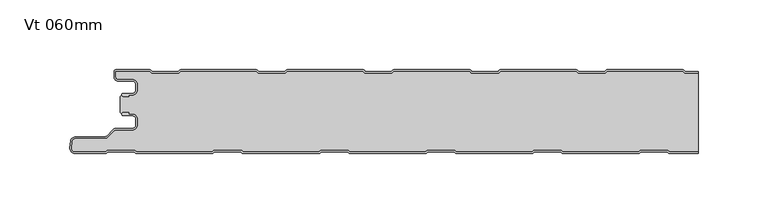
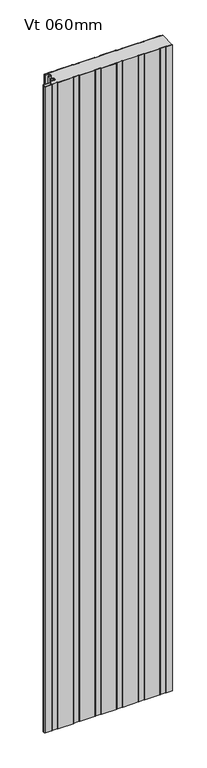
"""IFC4 building model written with IfcOpenShell, lengths in millimetres: plate geometry, KIP-MEX-KSS-1067-R19-CP-Vt-SL_SL : Vt 060mm."""

from ifc_helpers import new_model, si_unit, point, frame, frame_2d, origin, origin_with_axes, place, context, project, spatial, polyline, circle_curve, trimmed, segment, composite_curve, outline, extrude, source, transform, mapped, element, save
from ifc_brep_helpers import plane_surface, cylinder_surface, revolved_surface, advanced_brep


def vt_060mm_d385d6ef(model_context):
    return source(origin(), model_context, "Body", "SolidModel", [
        advanced_brep(
        [(-204.468691, -17.0015159, 2400.0), (-205.4686883, -18.0015191, 2400.0), (-204.468691, -19.0015105, 2400.0), (-200.4684874, -19.0015105, 2400.0), (-200.4684874, -18.0015159, 2400.0), (-197.7762776, -18.0015159, 2400.0), (-194.4762819, -14.7015202, 2400.0), (-194.4762819, -10.301529, 2400.0), (-197.7762774, -7.0015335, 2400.0), (-208.1962563, -7.0015335, 2400.0), (-209.9662505, -5.2315393, 2400.0), (-209.9662505, -0.9999916, 2400.0), (-185.4659738, -0.9999916, 2400.0), (-184.0803312, -2.2002307, 2400.0), (-164.7051649, -2.2002307, 2400.0), (-163.319532, -1.0, 2400.0), (-109.2661166, -1.0, 2400.0), (-107.8804836, -2.2002307, 2400.0), (-88.5053173, -2.2002307, 2400.0), (-87.1196844, -1.0, 2400.0), (-33.066269, -1.0, 2400.0), (-31.680636, -2.2002307, 2400.0), (-12.3054697, -2.2002307, 2400.0), (-10.9198368, -1.0, 2400.0), (43.1335786, -1.0, 2400.0), (44.5192116, -2.2002307, 2400.0), (63.8943779, -2.2002307, 2400.0), (65.2800108, -1.0, 2400.0), (119.3334262, -1.0, 2400.0), (120.7190592, -2.2002307, 2400.0), (140.0942255, -2.2002307, 2400.0), (141.4798584, -1.0, 2400.0), (195.5332738, -1.0, 2400.0), (196.9189068, -2.2002307, 2400.0), (206.4999998, -2.2002307, 2400.0), (206.4999998, -1.2002307, 2400.0), (197.2917872, -1.2002307, 2400.0), (196.3007396, -0.3417885, 2400.0), (195.3841227, 0.0, 2400.0), (141.6290096, 0.0, 2400.0), (140.7123927, -0.3417885, 2400.0), (139.7213451, -1.2002307, 2400.0), (121.0919396, -1.2002307, 2400.0), (120.100892, -0.3417885, 2400.0), (119.1842751, 0.0, 2400.0), (65.429162, 0.0, 2400.0), (64.5125451, -0.3417885, 2400.0), (63.5214975, -1.2002307, 2400.0), (44.892092, -1.2002307, 2400.0), (43.9010444, -0.3417885, 2400.0), (42.9844275, 0.0, 2400.0), (-10.7706856, 0.0, 2400.0), (-11.6873025, -0.3417885, 2400.0), (-12.6783501, -1.2002307, 2400.0), (-31.3077556, -1.2002307, 2400.0), (-32.2988032, -0.3417885, 2400.0), (-33.2154201, 0.0, 2400.0), (-86.9705332, 0.0, 2400.0), (-87.8871501, -0.3417885, 2400.0), (-88.8781977, -1.2002307, 2400.0), (-107.5076032, -1.2002307, 2400.0), (-108.4986508, -0.3417885, 2400.0), (-109.4152677, 0.0, 2400.0), (-163.1703808, 0.0, 2400.0), (-164.0869977, -0.3417885, 2400.0), (-165.0780453, -1.2002307, 2400.0), (-183.7074508, -1.2002307, 2400.0), (-184.6984984, -0.3417885, 2400.0), (-185.6152067, 0.0, 2400.0), (-209.5662543, 8.4e-06, 2400.0), (-210.9662505, -1.3999878, 2400.0), (-210.9662505, -5.2315393, 2400.0), (-208.1962563, -8.0015335, 2400.0), (-197.7762774, -8.0015335, 2400.0), (-195.4762819, -10.301529, 2400.0), (-195.4762819, -14.7015202, 2400.0), (-197.7762776, -17.0015159, 2400.0), (-204.468691, -17.0015159, 0.0), (-197.7762776, -17.0015159, 0.0), (-195.4762819, -14.7015202, 0.0), (-195.4762819, -10.301529, 0.0), (-197.7762774, -8.0015335, 0.0), (-208.1962563, -8.0015335, 0.0), (-210.9662505, -5.2315393, 0.0), (-210.9662505, -1.3999878, 0.0), (-209.5662543, 8.4e-06, 0.0), (-185.6151153, 8.4e-06, 0.0), (-184.6984984, -0.3417885, 0.0), (-183.7074508, -1.2002307, 0.0), (-165.0780453, -1.2002307, 0.0), (-164.0869977, -0.3417885, 0.0), (-163.1703808, 0.0, 0.0), (-109.4152677, 0.0, 0.0), (-108.4986508, -0.3417885, 0.0), (-107.5076032, -1.2002307, 0.0), (-88.8781977, -1.2002307, 0.0), (-87.8871501, -0.3417885, 0.0), (-86.9705332, 0.0, 0.0), (-33.2154201, 0.0, 0.0), (-32.2988032, -0.3417885, 0.0), (-31.3077556, -1.2002307, 0.0), (-12.6783501, -1.2002307, 0.0), (-11.6873025, -0.3417885, 0.0), (-10.7706856, 0.0, 0.0), (42.9844275, 0.0, 0.0), (43.9010444, -0.3417885, 0.0), (44.892092, -1.2002307, 0.0), (63.5214975, -1.2002307, 0.0), (64.5125451, -0.3417885, 0.0), (65.429162, 0.0, 0.0), (119.1842751, 0.0, 0.0), (120.100892, -0.3417885, 0.0), (121.0919396, -1.2002307, 0.0), (139.7213451, -1.2002307, 0.0), (140.7123927, -0.3417885, 0.0), (141.6290096, 0.0, 0.0), (195.3841227, 0.0, 0.0), (196.3007396, -0.3417885, 0.0), (197.2917872, -1.2002307, 0.0), (206.4999998, -1.2002307, 0.0), (206.4999998, -2.2002307, 0.0), (196.9189068, -2.2002307, 0.0), (195.5332738, -1.0, 0.0), (141.4798584, -1.0, 0.0), (140.0942255, -2.2002307, 0.0), (120.7190592, -2.2002307, 0.0), (119.3334262, -1.0, 0.0), (65.2800108, -1.0, 0.0), (63.8943779, -2.2002307, 0.0), (44.5192116, -2.2002307, 0.0), (43.1335786, -1.0, 0.0), (-10.9198368, -1.0, 0.0), (-12.3054697, -2.2002307, 0.0), (-31.680636, -2.2002307, 0.0), (-33.066269, -1.0, 0.0), (-87.1196844, -1.0, 0.0), (-88.5053173, -2.2002307, 0.0), (-107.8804836, -2.2002307, 0.0), (-109.2661166, -1.0, 0.0), (-163.319532, -1.0, 0.0), (-164.7051649, -2.2002307, 0.0), (-184.0803312, -2.2002307, 0.0), (-185.4659738, -0.9999916, 0.0), (-209.9662505, -0.9999916, 0.0), (-209.9662505, -5.2315393, 0.0), (-208.1962563, -7.0015335, 0.0), (-197.7762774, -7.0015335, 0.0), (-194.4762819, -10.301529, 0.0), (-194.4762819, -14.7015202, 0.0), (-197.7762776, -18.0015159, 0.0), (-200.4684874, -18.0015159, 0.0), (-200.4684874, -19.0015105, 0.0), (-204.468691, -19.0015105, 0.0), (-205.4686882, -18.0015192, 0.0)],
        [
            (0, 1, circle_curve(frame((-204.468691, -18.0015132, 2400.0), z_axis=(0.0, 0.0, 1.0), x_axis=(1.0, 0.0, 0.0)), 0.9999973)),
            (1, 2, circle_curve(frame((-204.468691, -18.0015133, 2400.0), z_axis=(0.0, 0.0, 1.0), x_axis=(1.0, 0.0, 0.0)), 0.9999972)),
            (2, 3),
            (3, 4),
            (4, 5),
            (5, 6, circle_curve(frame((-197.7762776, -14.7015202, 2400.0), z_axis=(0.0, 0.0, 1.0), x_axis=(1.0, 0.0, 0.0)), 3.2999957)),
            (6, 7),
            (7, 8, circle_curve(frame((-197.7762774, -10.301529, 2400.0), z_axis=(0.0, 0.0, 1.0), x_axis=(1.0, 0.0, 0.0)), 3.2999955)),
            (8, 9),
            (9, 10, circle_curve(frame((-208.1962563, -5.2315393, 2400.0), z_axis=(0.0, 0.0, -1.0), x_axis=(1.0, 0.0, 0.0)), 1.7699942)),
            (10, 11),
            (11, 12),
            (12, 13),
            (13, 14),
            (14, 15),
            (15, 16),
            (16, 17),
            (17, 18),
            (18, 19),
            (19, 20),
            (20, 21),
            (21, 22),
            (22, 23),
            (23, 24),
            (24, 25),
            (25, 26),
            (26, 27),
            (27, 28),
            (28, 29),
            (29, 30),
            (30, 31),
            (31, 32),
            (32, 33),
            (33, 34),
            (34, 35),
            (35, 36),
            (36, 37),
            (37, 38, circle_curve(frame((195.3841227, -1.3999972, 2400.0), z_axis=(0.0, 0.0, 1.0), x_axis=(1.0, 0.0, 0.0)), 1.3999972)),
            (38, 39),
            (39, 40, circle_curve(frame((141.6290096, -1.3999972, 2400.0), z_axis=(0.0, 0.0, 1.0), x_axis=(1.0, 0.0, 0.0)), 1.3999972)),
            (40, 41),
            (41, 42),
            (42, 43),
            (43, 44, circle_curve(frame((119.1842751, -1.3999972, 2400.0), z_axis=(0.0, 0.0, 1.0), x_axis=(1.0, 0.0, 0.0)), 1.3999972)),
            (44, 45),
            (45, 46, circle_curve(frame((65.429162, -1.3999972, 2400.0), z_axis=(0.0, 0.0, 1.0), x_axis=(1.0, 0.0, 0.0)), 1.3999972)),
            (46, 47),
            (47, 48),
            (48, 49),
            (49, 50, circle_curve(frame((42.9844275, -1.3999972, 2400.0), z_axis=(0.0, 0.0, 1.0), x_axis=(1.0, 0.0, 0.0)), 1.3999972)),
            (50, 51),
            (51, 52, circle_curve(frame((-10.7706856, -1.3999972, 2400.0), z_axis=(0.0, 0.0, 1.0), x_axis=(1.0, 0.0, 0.0)), 1.3999972)),
            (52, 53),
            (53, 54),
            (54, 55),
            (55, 56, circle_curve(frame((-33.2154201, -1.3999972, 2400.0), z_axis=(0.0, 0.0, 1.0), x_axis=(1.0, 0.0, 0.0)), 1.3999972)),
            (56, 57),
            (57, 58, circle_curve(frame((-86.9705332, -1.3999972, 2400.0), z_axis=(0.0, 0.0, 1.0), x_axis=(1.0, 0.0, 0.0)), 1.3999972)),
            (58, 59),
            (59, 60),
            (60, 61),
            (61, 62, circle_curve(frame((-109.4152677, -1.3999972, 2400.0), z_axis=(0.0, 0.0, 1.0), x_axis=(1.0, 0.0, 0.0)), 1.3999972)),
            (62, 63),
            (63, 64, circle_curve(frame((-163.1703808, -1.3999972, 2400.0), z_axis=(0.0, 0.0, 1.0), x_axis=(1.0, 0.0, 0.0)), 1.3999972)),
            (64, 65),
            (65, 66),
            (66, 67),
            (67, 68, circle_curve(frame((-185.6151153, -1.3999972, 2400.0), z_axis=(0.0, 0.0, 1.0), x_axis=(1.0, 0.0, 0.0)), 1.3999972)),
            (68, 69),
            (69, 70, circle_curve(frame((-209.5662543, -1.3999878, 2400.0), z_axis=(0.0, 0.0, 1.0), x_axis=(1.0, 0.0, 0.0)), 1.3999962)),
            (70, 71),
            (71, 72, circle_curve(frame((-208.1962563, -5.2315393, 2400.0), z_axis=(0.0, 0.0, 1.0), x_axis=(1.0, 0.0, 0.0)), 2.7699942)),
            (72, 73),
            (73, 74, circle_curve(frame((-197.7762774, -10.301529, 2400.0), z_axis=(0.0, 0.0, -1.0), x_axis=(1.0, 0.0, 0.0)), 2.2999955)),
            (74, 75),
            (75, 76, circle_curve(frame((-197.7762776, -14.7015202, 2400.0), z_axis=(0.0, 0.0, -1.0), x_axis=(1.0, 0.0, 0.0)), 2.2999957)),
            (76, 0),
            (77, 78),
            (78, 79, circle_curve(frame((-197.7762776, -14.7015202, 0.0), z_axis=(0.0, 0.0, 1.0), x_axis=(1.0, 0.0, 0.0)), 2.2999957)),
            (79, 80),
            (80, 81, circle_curve(frame((-197.7762774, -10.301529, 0.0), z_axis=(0.0, 0.0, 1.0), x_axis=(1.0, 0.0, 0.0)), 2.2999955)),
            (81, 82),
            (82, 83, circle_curve(frame((-208.1962563, -5.2315393, 0.0), z_axis=(0.0, 0.0, -1.0), x_axis=(1.0, 0.0, 0.0)), 2.7699942)),
            (83, 84),
            (84, 85, circle_curve(frame((-209.5662543, -1.3999878, 0.0), z_axis=(0.0, 0.0, -1.0), x_axis=(1.0, 0.0, 0.0)), 1.3999962)),
            (85, 86),
            (86, 87, circle_curve(frame((-185.6151153, -1.3999972, 0.0), z_axis=(0.0, 0.0, -1.0), x_axis=(1.0, 0.0, 0.0)), 1.3999972)),
            (87, 88),
            (88, 89),
            (89, 90),
            (90, 91, circle_curve(frame((-163.1703808, -1.3999972, 0.0), z_axis=(0.0, 0.0, -1.0), x_axis=(1.0, 0.0, 0.0)), 1.3999972)),
            (91, 92),
            (92, 93, circle_curve(frame((-109.4152677, -1.3999972, 0.0), z_axis=(0.0, 0.0, -1.0), x_axis=(1.0, 0.0, 0.0)), 1.3999972)),
            (93, 94),
            (94, 95),
            (95, 96),
            (96, 97, circle_curve(frame((-86.9705332, -1.3999972, 0.0), z_axis=(0.0, 0.0, -1.0), x_axis=(1.0, 0.0, 0.0)), 1.3999972)),
            (97, 98),
            (98, 99, circle_curve(frame((-33.2154201, -1.3999972, 0.0), z_axis=(0.0, 0.0, -1.0), x_axis=(1.0, 0.0, 0.0)), 1.3999972)),
            (99, 100),
            (100, 101),
            (101, 102),
            (102, 103, circle_curve(frame((-10.7706856, -1.3999972, 0.0), z_axis=(0.0, 0.0, -1.0), x_axis=(1.0, 0.0, 0.0)), 1.3999972)),
            (103, 104),
            (104, 105, circle_curve(frame((42.9844275, -1.3999972, 0.0), z_axis=(0.0, 0.0, -1.0), x_axis=(1.0, 0.0, 0.0)), 1.3999972)),
            (105, 106),
            (106, 107),
            (107, 108),
            (108, 109, circle_curve(frame((65.429162, -1.3999972, 0.0), z_axis=(0.0, 0.0, -1.0), x_axis=(1.0, 0.0, 0.0)), 1.3999972)),
            (109, 110),
            (110, 111, circle_curve(frame((119.1842751, -1.3999972, 0.0), z_axis=(0.0, 0.0, -1.0), x_axis=(1.0, 0.0, 0.0)), 1.3999972)),
            (111, 112),
            (112, 113),
            (113, 114),
            (114, 115, circle_curve(frame((141.6290096, -1.3999972, 0.0), z_axis=(0.0, 0.0, -1.0), x_axis=(1.0, 0.0, 0.0)), 1.3999972)),
            (115, 116),
            (116, 117, circle_curve(frame((195.3841227, -1.3999972, 0.0), z_axis=(0.0, 0.0, -1.0), x_axis=(1.0, 0.0, 0.0)), 1.3999972)),
            (117, 118),
            (118, 119),
            (119, 120),
            (120, 121),
            (121, 122),
            (122, 123),
            (123, 124),
            (124, 125),
            (125, 126),
            (126, 127),
            (127, 128),
            (128, 129),
            (129, 130),
            (130, 131),
            (131, 132),
            (132, 133),
            (133, 134),
            (134, 135),
            (135, 136),
            (136, 137),
            (137, 138),
            (138, 139),
            (139, 140),
            (140, 141),
            (141, 142),
            (142, 143),
            (143, 144),
            (144, 145, circle_curve(frame((-208.1962563, -5.2315393, 0.0), z_axis=(0.0, 0.0, 1.0), x_axis=(1.0, 0.0, 0.0)), 1.7699942)),
            (145, 146),
            (146, 147, circle_curve(frame((-197.7762774, -10.301529, 0.0), z_axis=(0.0, 0.0, -1.0), x_axis=(1.0, 0.0, 0.0)), 3.2999955)),
            (147, 148),
            (148, 149, circle_curve(frame((-197.7762776, -14.7015202, 0.0), z_axis=(0.0, 0.0, -1.0), x_axis=(1.0, 0.0, 0.0)), 3.2999957)),
            (149, 150),
            (150, 151),
            (151, 152),
            (152, 153, circle_curve(frame((-204.468691, -18.0015133, 0.0), z_axis=(0.0, 0.0, -1.0), x_axis=(1.0, 0.0, 0.0)), 0.9999972)),
            (153, 77, circle_curve(frame((-204.468691, -18.0015132, 0.0), z_axis=(0.0, 0.0, -1.0), x_axis=(1.0, 0.0, 0.0)), 0.9999973)),
            (76, 78),
            (77, 0),
            (75, 79),
            (74, 80),
            (73, 81),
            (72, 82),
            (71, 83),
            (70, 84),
            (69, 85),
            (68, 86),
            (67, 87),
            (66, 88),
            (65, 89),
            (64, 90),
            (63, 91),
            (62, 92),
            (61, 93),
            (60, 94),
            (59, 95),
            (58, 96),
            (57, 97),
            (56, 98),
            (55, 99),
            (54, 100),
            (53, 101),
            (52, 102),
            (51, 103),
            (50, 104),
            (49, 105),
            (48, 106),
            (47, 107),
            (46, 108),
            (45, 109),
            (44, 110),
            (43, 111),
            (42, 112),
            (41, 113),
            (40, 114),
            (39, 115),
            (38, 116),
            (37, 117),
            (36, 118),
            (35, 119),
            (120, 34),
            (33, 121),
            (32, 122),
            (31, 123),
            (30, 124),
            (29, 125),
            (28, 126),
            (27, 127),
            (26, 128),
            (25, 129),
            (24, 130),
            (23, 131),
            (22, 132),
            (21, 133),
            (20, 134),
            (19, 135),
            (18, 136),
            (17, 137),
            (16, 138),
            (15, 139),
            (14, 140),
            (13, 141),
            (12, 142),
            (11, 143),
            (10, 144),
            (9, 145),
            (8, 146),
            (7, 147),
            (6, 148),
            (5, 149),
            (4, 150),
            (3, 151),
            (2, 152),
            (1, 153),
        ],
        [
            plane_surface(frame((326.9000002, 0.0, 2400.0), z_axis=(0.0, 0.0, 1.0), x_axis=(0.0, 1.0, 0.0))),
            plane_surface(frame((326.9000002, 0.0, 0.0), z_axis=(0.0, 0.0, -1.0), x_axis=(0.0, 1.0, 0.0))),
            plane_surface(frame((-204.468691, -17.0015159, 2400.0), z_axis=(0.0, 1.0, 0.0), x_axis=(0.0, 0.0, -1.0))),
            revolved_surface(polyline([(-195.47628189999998, -14.7015202, 0.0), (-195.47628189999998, -14.7015202, 2400.0)]), (-197.7762776, -14.7015202, 2400.0), (0.0, 0.0, -1.0)),
            plane_surface(frame((-195.4762819, -14.7015202, 2400.0), z_axis=(-1.0, 0.0, 0.0), x_axis=(0.0, 0.0, -1.0))),
            revolved_surface(polyline([(-195.4762819, -10.301529, 0.0), (-195.4762819, -10.301529, 2400.0)]), (-197.7762774, -10.301529, 2400.0), (0.0, 0.0, -1.0)),
            plane_surface(frame((-197.7762774, -8.0015335, 2400.0), z_axis=(0.0, -1.0, 0.0), x_axis=(0.0, 0.0, -1.0))),
            cylinder_surface(frame((-208.1962563, -5.2315393, 2400.0), z_axis=(0.0, 0.0, 1.0), x_axis=(1.0, 0.0, 0.0)), 2.7699942),
            plane_surface(frame((-210.9662505, -5.2315393, 2400.0), z_axis=(-1.0, 0.0, 0.0), x_axis=(0.0, 0.0, -1.0))),
            cylinder_surface(frame((-209.5662543, -1.3999878, 2400.0), z_axis=(0.0, 0.0, 1.0), x_axis=(1.0, 0.0, 0.0)), 1.3999962),
            plane_surface(frame((-209.5662543, 8.4e-06, 2400.0), z_axis=(0.0, 1.0, 0.0), x_axis=(0.0, 0.0, -1.0))),
            cylinder_surface(frame((-185.6151153, -1.3999972, 2400.0), z_axis=(0.0, 0.0, 1.0), x_axis=(1.0, 0.0, 0.0)), 1.3999972),
            plane_surface(frame((-184.6984984, -0.3417885, 2400.0), z_axis=(0.6547276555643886, 0.755864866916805, 0.0), x_axis=(0.0, 0.0, -1.0))),
            plane_surface(frame((-174.3927481, -1.2002307, 2400.0), z_axis=(0.0, 1.0, 0.0), x_axis=(0.0, 0.0, -1.0))),
            plane_surface(frame((-165.0780453, -1.2002307, 2400.0), z_axis=(-0.6547276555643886, 0.755864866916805, 0.0), x_axis=(0.0, 0.0, -1.0))),
            cylinder_surface(frame((-163.1703808, -1.3999972, 2400.0), z_axis=(0.0, 0.0, 1.0), x_axis=(1.0, 0.0, 0.0)), 1.3999972),
            plane_surface(frame((-163.1703808, 0.0, 2400.0), z_axis=(0.0, 1.0, 0.0), x_axis=(0.0, 0.0, -1.0))),
            cylinder_surface(frame((-109.4152677, -1.3999972, 2400.0), z_axis=(0.0, 0.0, 1.0), x_axis=(1.0, 0.0, 0.0)), 1.3999972),
            plane_surface(frame((-108.4986508, -0.3417885, 2400.0), z_axis=(0.6547276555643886, 0.755864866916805, 0.0), x_axis=(0.0, 0.0, -1.0))),
            plane_surface(frame((-98.1929005, -1.2002307, 2400.0), z_axis=(0.0, 1.0, 0.0), x_axis=(0.0, 0.0, -1.0))),
            plane_surface(frame((-88.8781977, -1.2002307, 2400.0), z_axis=(-0.6547276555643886, 0.755864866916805, 0.0), x_axis=(0.0, 0.0, -1.0))),
            cylinder_surface(frame((-86.9705332, -1.3999972, 2400.0), z_axis=(0.0, 0.0, 1.0), x_axis=(1.0, 0.0, 0.0)), 1.3999972),
            plane_surface(frame((-86.9705332, 0.0, 2400.0), z_axis=(0.0, 1.0, 0.0), x_axis=(0.0, 0.0, -1.0))),
            cylinder_surface(frame((-33.2154201, -1.3999972, 2400.0), z_axis=(0.0, 0.0, 1.0), x_axis=(1.0, 0.0, 0.0)), 1.3999972),
            plane_surface(frame((-32.2988032, -0.3417885, 2400.0), z_axis=(0.6547276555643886, 0.755864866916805, 0.0), x_axis=(0.0, 0.0, -1.0))),
            plane_surface(frame((-21.9930529, -1.2002307, 2400.0), z_axis=(0.0, 1.0, 0.0), x_axis=(0.0, 0.0, -1.0))),
            plane_surface(frame((-12.6783501, -1.2002307, 2400.0), z_axis=(-0.6547276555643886, 0.755864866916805, 0.0), x_axis=(0.0, 0.0, -1.0))),
            cylinder_surface(frame((-10.7706856, -1.3999972, 2400.0), z_axis=(0.0, 0.0, 1.0), x_axis=(1.0, 0.0, 0.0)), 1.3999972),
            plane_surface(frame((-10.7706856, 0.0, 2400.0), z_axis=(0.0, 1.0, 0.0), x_axis=(0.0, 0.0, -1.0))),
            cylinder_surface(frame((42.9844275, -1.3999972, 2400.0), z_axis=(0.0, 0.0, 1.0), x_axis=(1.0, 0.0, 0.0)), 1.3999972),
            plane_surface(frame((43.9010444, -0.3417885, 2400.0), z_axis=(0.6547276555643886, 0.755864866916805, 0.0), x_axis=(0.0, 0.0, -1.0))),
            plane_surface(frame((54.2067947, -1.2002307, 2400.0), z_axis=(0.0, 1.0, 0.0), x_axis=(0.0, 0.0, -1.0))),
            plane_surface(frame((63.5214975, -1.2002307, 2400.0), z_axis=(-0.6547276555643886, 0.755864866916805, 0.0), x_axis=(0.0, 0.0, -1.0))),
            cylinder_surface(frame((65.429162, -1.3999972, 2400.0), z_axis=(0.0, 0.0, 1.0), x_axis=(1.0, 0.0, 0.0)), 1.3999972),
            plane_surface(frame((65.429162, 0.0, 2400.0), z_axis=(0.0, 1.0, 0.0), x_axis=(0.0, 0.0, -1.0))),
            cylinder_surface(frame((119.1842751, -1.3999972, 2400.0), z_axis=(0.0, 0.0, 1.0), x_axis=(1.0, 0.0, 0.0)), 1.3999972),
            plane_surface(frame((120.100892, -0.3417885, 2400.0), z_axis=(0.6547276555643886, 0.755864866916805, 0.0), x_axis=(0.0, 0.0, -1.0))),
            plane_surface(frame((130.4066423, -1.2002307, 2400.0), z_axis=(0.0, 1.0, 0.0), x_axis=(0.0, 0.0, -1.0))),
            plane_surface(frame((139.7213451, -1.2002307, 2400.0), z_axis=(-0.6547276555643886, 0.755864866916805, 0.0), x_axis=(0.0, 0.0, -1.0))),
            cylinder_surface(frame((141.6290096, -1.3999972, 2400.0), z_axis=(0.0, 0.0, 1.0), x_axis=(1.0, 0.0, 0.0)), 1.3999972),
            plane_surface(frame((141.6290096, 0.0, 2400.0), z_axis=(0.0, 1.0, 0.0), x_axis=(0.0, 0.0, -1.0))),
            cylinder_surface(frame((195.3841227, -1.3999972, 2400.0), z_axis=(0.0, 0.0, 1.0), x_axis=(1.0, 0.0, 0.0)), 1.3999972),
            plane_surface(frame((196.3007396, -0.3417885, 2400.0), z_axis=(0.6547276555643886, 0.755864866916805, 0.0), x_axis=(0.0, 0.0, -1.0))),
            plane_surface(frame((206.6064899, -1.2002307, 2400.0), z_axis=(0.0, 1.0, 0.0), x_axis=(0.0, 0.0, -1.0))),
            plane_surface(frame((216.2940731, -2.2002307, 2400.0), z_axis=(0.0, -1.0, 0.0), x_axis=(0.0, 0.0, -1.0))),
            plane_surface(frame((196.9189068, -2.2002307, 2400.0), z_axis=(-0.6547276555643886, -0.755864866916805, 0.0), x_axis=(0.0, 0.0, -1.0))),
            plane_surface(frame((195.5332738, -1.0, 2400.0), z_axis=(0.0, -1.0, 0.0), x_axis=(0.0, 0.0, -1.0))),
            plane_surface(frame((141.4798584, -1.0, 2400.0), z_axis=(0.6547276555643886, -0.755864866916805, 0.0), x_axis=(0.0, 0.0, -1.0))),
            plane_surface(frame((140.0942255, -2.2002307, 2400.0), z_axis=(0.0, -1.0, 0.0), x_axis=(0.0, 0.0, -1.0))),
            plane_surface(frame((120.7190592, -2.2002307, 2400.0), z_axis=(-0.6547276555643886, -0.755864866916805, 0.0), x_axis=(0.0, 0.0, -1.0))),
            plane_surface(frame((119.3334262, -1.0, 2400.0), z_axis=(0.0, -1.0, 0.0), x_axis=(0.0, 0.0, -1.0))),
            plane_surface(frame((65.2800108, -1.0, 2400.0), z_axis=(0.6547276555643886, -0.755864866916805, 0.0), x_axis=(0.0, 0.0, -1.0))),
            plane_surface(frame((63.8943779, -2.2002307, 2400.0), z_axis=(0.0, -1.0, 0.0), x_axis=(0.0, 0.0, -1.0))),
            plane_surface(frame((44.5192116, -2.2002307, 2400.0), z_axis=(-0.6547276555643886, -0.755864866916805, 0.0), x_axis=(0.0, 0.0, -1.0))),
            plane_surface(frame((43.1335786, -1.0, 2400.0), z_axis=(0.0, -1.0, 0.0), x_axis=(0.0, 0.0, -1.0))),
            plane_surface(frame((-10.9198368, -1.0, 2400.0), z_axis=(0.6547276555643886, -0.755864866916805, 0.0), x_axis=(0.0, 0.0, -1.0))),
            plane_surface(frame((-12.3054697, -2.2002307, 2400.0), z_axis=(0.0, -1.0, 0.0), x_axis=(0.0, 0.0, -1.0))),
            plane_surface(frame((-31.680636, -2.2002307, 2400.0), z_axis=(-0.6547276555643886, -0.755864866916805, 0.0), x_axis=(0.0, 0.0, -1.0))),
            plane_surface(frame((-33.066269, -1.0, 2400.0), z_axis=(0.0, -1.0, 0.0), x_axis=(0.0, 0.0, -1.0))),
            plane_surface(frame((-87.1196844, -1.0, 2400.0), z_axis=(0.6547276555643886, -0.755864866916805, 0.0), x_axis=(0.0, 0.0, -1.0))),
            plane_surface(frame((-88.5053173, -2.2002307, 2400.0), z_axis=(0.0, -1.0, 0.0), x_axis=(0.0, 0.0, -1.0))),
            plane_surface(frame((-107.8804836, -2.2002307, 2400.0), z_axis=(-0.6547276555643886, -0.755864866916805, 0.0), x_axis=(0.0, 0.0, -1.0))),
            plane_surface(frame((-109.2661166, -1.0, 2400.0), z_axis=(0.0, -1.0, 0.0), x_axis=(0.0, 0.0, -1.0))),
            plane_surface(frame((-163.319532, -1.0, 2400.0), z_axis=(0.6547276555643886, -0.755864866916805, 0.0), x_axis=(0.0, 0.0, -1.0))),
            plane_surface(frame((-164.7051649, -2.2002307, 2400.0), z_axis=(0.0, -1.0, 0.0), x_axis=(0.0, 0.0, -1.0))),
            plane_surface(frame((-184.0803312, -2.2002307, 2400.0), z_axis=(-0.6547276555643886, -0.755864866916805, 0.0), x_axis=(0.0, 0.0, -1.0))),
            plane_surface(frame((-185.4659738, -0.9999916, 2400.0), z_axis=(0.0, -1.0, 0.0), x_axis=(0.0, 0.0, -1.0))),
            plane_surface(frame((-209.9662505, -0.9999916, 2400.0), z_axis=(1.0, 0.0, 0.0), x_axis=(0.0, 0.0, -1.0))),
            revolved_surface(polyline([(-206.42626209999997, -5.2315393, 0.0), (-206.42626209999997, -5.2315393, 2400.0)]), (-208.1962563, -5.2315393, 2400.0), (0.0, 0.0, -1.0)),
            plane_surface(frame((-208.1962563, -7.0015335, 2400.0), z_axis=(0.0, 1.0, 0.0), x_axis=(0.0, 0.0, -1.0))),
            cylinder_surface(frame((-197.7762774, -10.301529, 2400.0), z_axis=(0.0, 0.0, 1.0), x_axis=(1.0, 0.0, 0.0)), 3.2999955),
            plane_surface(frame((-194.4762819, -10.301529, 2400.0), z_axis=(1.0, 0.0, 0.0), x_axis=(0.0, 0.0, -1.0))),
            cylinder_surface(frame((-197.7762776, -14.7015202, 2400.0), z_axis=(0.0, 0.0, 1.0), x_axis=(1.0, 0.0, 0.0)), 3.2999957),
            plane_surface(frame((-197.7762776, -18.0015159, 2400.0), z_axis=(0.0, -1.0, 0.0), x_axis=(0.0, 0.0, -1.0))),
            plane_surface(frame((-200.4684874, -18.0015159, 2400.0), z_axis=(1.0, 0.0, 0.0), x_axis=(0.0, 0.0, -1.0))),
            plane_surface(frame((-200.4684874, -19.0015105, 2400.0), z_axis=(0.0, -1.0, 0.0), x_axis=(0.0, 0.0, -1.0))),
            cylinder_surface(frame((-204.468691, -18.0015133, 2400.0), z_axis=(0.0, 0.0, 1.0), x_axis=(1.0, 0.0, 0.0)), 0.9999972),
            cylinder_surface(frame((-204.468691, -18.0015132, 2400.0), z_axis=(0.0, 0.0, 1.0), x_axis=(1.0, 0.0, 0.0)), 0.9999973),
            plane_surface(frame((206.4999998, -70.0, 2400.0), z_axis=(1.0, 0.0, 0.0), x_axis=(0.0, 0.0, -1.0))),
        ],
        [
            (0, [[1, 2, 3, 4, 5, 6, 7, 8, 9, 10, 11, 12, 13, 14, 15, 16, 17, 18, 19, 20, 21, 22, 23, 24, 25, 26, 27, 28, 29, 30, 31, 32, 33, 34, 35, 36, 37, 38, 39, 40, 41, 42, 43, 44, 45, 46, 47, 48, 49, 50, 51, 52, 53, 54, 55, 56, 57, 58, 59, 60, 61, 62, 63, 64, 65, 66, 67, 68, 69, 70, 71, 72, 73, 74, 75, 76, 77]]),
            (1, [[78, 79, 80, 81, 82, 83, 84, 85, 86, 87, 88, 89, 90, 91, 92, 93, 94, 95, 96, 97, 98, 99, 100, 101, 102, 103, 104, 105, 106, 107, 108, 109, 110, 111, 112, 113, 114, 115, 116, 117, 118, 119, 120, 121, 122, 123, 124, 125, 126, 127, 128, 129, 130, 131, 132, 133, 134, 135, 136, 137, 138, 139, 140, 141, 142, 143, 144, 145, 146, 147, 148, 149, 150, 151, 152, 153, 154]]),
            (2, [[155, -78, 156, -77]]),
            (3, [[157, -79, -155, -76]]),
            (4, [[158, -80, -157, -75]]),
            (5, [[159, -81, -158, -74]]),
            (6, [[160, -82, -159, -73]]),
            (7, [[161, -83, -160, -72]]),
            (8, [[162, -84, -161, -71]]),
            (9, [[163, -85, -162, -70]]),
            (10, [[164, -86, -163, -69]]),
            (11, [[165, -87, -164, -68]]),
            (12, [[166, -88, -165, -67]]),
            (13, [[167, -89, -166, -66]]),
            (14, [[168, -90, -167, -65]]),
            (15, [[169, -91, -168, -64]]),
            (16, [[170, -92, -169, -63]]),
            (17, [[171, -93, -170, -62]]),
            (18, [[172, -94, -171, -61]]),
            (19, [[173, -95, -172, -60]]),
            (20, [[174, -96, -173, -59]]),
            (21, [[175, -97, -174, -58]]),
            (22, [[176, -98, -175, -57]]),
            (23, [[177, -99, -176, -56]]),
            (24, [[178, -100, -177, -55]]),
            (25, [[179, -101, -178, -54]]),
            (26, [[180, -102, -179, -53]]),
            (27, [[181, -103, -180, -52]]),
            (28, [[182, -104, -181, -51]]),
            (29, [[183, -105, -182, -50]]),
            (30, [[184, -106, -183, -49]]),
            (31, [[185, -107, -184, -48]]),
            (32, [[186, -108, -185, -47]]),
            (33, [[187, -109, -186, -46]]),
            (34, [[188, -110, -187, -45]]),
            (35, [[189, -111, -188, -44]]),
            (36, [[190, -112, -189, -43]]),
            (37, [[191, -113, -190, -42]]),
            (38, [[192, -114, -191, -41]]),
            (39, [[193, -115, -192, -40]]),
            (40, [[194, -116, -193, -39]]),
            (41, [[195, -117, -194, -38]]),
            (42, [[196, -118, -195, -37]]),
            (43, [[-36, 197, -119, -196]]),
            (44, [[-121, 198, -34, 199]]),
            (45, [[200, -122, -199, -33]]),
            (46, [[201, -123, -200, -32]]),
            (47, [[202, -124, -201, -31]]),
            (48, [[203, -125, -202, -30]]),
            (49, [[204, -126, -203, -29]]),
            (50, [[205, -127, -204, -28]]),
            (51, [[206, -128, -205, -27]]),
            (52, [[207, -129, -206, -26]]),
            (53, [[208, -130, -207, -25]]),
            (54, [[209, -131, -208, -24]]),
            (55, [[210, -132, -209, -23]]),
            (56, [[211, -133, -210, -22]]),
            (57, [[212, -134, -211, -21]]),
            (58, [[213, -135, -212, -20]]),
            (59, [[214, -136, -213, -19]]),
            (60, [[215, -137, -214, -18]]),
            (61, [[216, -138, -215, -17]]),
            (62, [[217, -139, -216, -16]]),
            (63, [[218, -140, -217, -15]]),
            (64, [[219, -141, -218, -14]]),
            (65, [[220, -142, -219, -13]]),
            (66, [[221, -143, -220, -12]]),
            (67, [[222, -144, -221, -11]]),
            (68, [[223, -145, -222, -10]]),
            (69, [[224, -146, -223, -9]]),
            (70, [[225, -147, -224, -8]]),
            (71, [[226, -148, -225, -7]]),
            (72, [[227, -149, -226, -6]]),
            (73, [[228, -150, -227, -5]]),
            (74, [[229, -151, -228, -4]]),
            (75, [[230, -152, -229, -3]]),
            (76, [[231, -153, -230, -2]]),
            (77, [[-156, -154, -231, -1]]),
            (78, [[-198, -120, -197, -35]]),
        ],
    ),
        extrude(outline(composite_curve([segment(polyline([(-217.1415932, -60.0006394), (-238.9521175, -60.0006394)]), True, "CONTINUOUS"), segment(trimmed(circle_curve(frame_2d((-238.9521175, -56.4304001)), 3.5702393), [point((-238.9521175, -60.0006394))], [point((-242.5087619, -56.1191297))], False, "CARTESIAN"), True, "CONTINUOUS"), segment(polyline([(-242.5087619, -56.1191297), (-242.0690674, -51.0950831)]), True, "CONTINUOUS"), segment(trimmed(circle_curve(frame_2d((-238.4198391, -51.7058842)), 3.6999926), [point((-242.0690674, -51.0950831))], [point((-238.4198391, -48.0058916))], False, "CARTESIAN"), True, "CONTINUOUS"), segment(polyline([(-238.4198391, -48.0058916), (-217.2773995, -48.0058916)]), True, "CONTINUOUS"), segment(trimmed(circle_curve(frame_2d((-217.2773995, -46.7058942)), 1.2999974), [point((-217.2773995, -48.0058916))], [point((-216.3581626, -47.6251312))], True, "CARTESIAN"), True, "CONTINUOUS"), segment(polyline([(-216.3581626, -47.6251312), (-211.5297451, -42.7967137)]), True, "CONTINUOUS"), segment(trimmed(circle_curve(frame_2d((-209.6205606, -44.7058982)), 2.6999946), [point((-211.5297451, -42.7967137))], [point((-209.6205606, -42.0059036))], False, "CARTESIAN"), True, "CONTINUOUS"), segment(polyline([(-209.6205606, -42.0059036), (-197.8096715, -42.0059036)]), True, "CONTINUOUS"), segment(trimmed(circle_curve(frame_2d((-197.8096715, -39.6559083)), 2.3499953), [point((-197.8096715, -42.0059036))], [point((-195.4596762, -39.6559083))], True, "CARTESIAN"), True, "CONTINUOUS"), segment(polyline([(-195.4596762, -39.6559083), (-195.4596762, -35.2559171)]), True, "CONTINUOUS"), segment(trimmed(circle_curve(frame_2d((-197.8096715, -35.2559171)), 2.3499953), [point((-195.4596762, -35.2559171))], [point((-197.8096715, -32.9059218))], True, "CARTESIAN"), True, "CONTINUOUS"), segment(polyline([(-197.8096715, -32.9059218), (-204.3289777, -32.9059218)]), True, "CONTINUOUS"), segment(trimmed(circle_curve(frame_2d((-204.2686906, -31.7074396)), 1.1999976), [point((-204.3289777, -32.9059218))], [point((-205.4683, -31.6769177))], False, "CARTESIAN"), True, "CONTINUOUS"), segment(trimmed(circle_curve(frame_2d((-204.2686906, -31.7074396)), 1.1999976), [point((-205.4683, -31.6769177))], [point((-204.267176, -30.5074429))], False, "CARTESIAN"), True, "CONTINUOUS"), segment(polyline([(-204.267176, -30.5074429), (-200.5087826, -30.5074429), (-200.5087826, -31.9059218), (-197.8096715, -31.9059218)]), True, "CONTINUOUS"), segment(trimmed(circle_curve(frame_2d((-197.8096715, -35.2559171)), 3.3499953), [point((-197.8096715, -31.9059218))], [point((-194.4596762, -35.2559171))], False, "CARTESIAN"), True, "CONTINUOUS"), segment(polyline([(-194.4596762, -35.2559171), (-194.4596762, -39.6559083)]), True, "CONTINUOUS"), segment(trimmed(circle_curve(frame_2d((-197.8096715, -39.6559083)), 3.3499953), [point((-194.4596762, -39.6559083))], [point((-197.8096715, -43.0059036))], False, "CARTESIAN"), True, "CONTINUOUS"), segment(polyline([(-197.8096715, -43.0059036), (-209.6205606, -43.0059036)]), True, "CONTINUOUS"), segment(trimmed(circle_curve(frame_2d((-209.6205606, -44.7058982)), 1.6999946), [point((-209.6205606, -43.0059036))], [point((-210.8226383, -43.5038205))], True, "CARTESIAN"), True, "CONTINUOUS"), segment(polyline([(-210.8226383, -43.5038205), (-216.3247094, -49.0058916), (-238.4198391, -49.0058916)]), True, "CONTINUOUS"), segment(trimmed(circle_curve(frame_2d((-238.4198391, -51.7058842)), 2.6999926), [point((-238.4198391, -49.0058916))], [point((-241.0765707, -51.2244936))], True, "CARTESIAN"), True, "CONTINUOUS"), segment(polyline([(-241.0765707, -51.2244936), (-241.5125697, -56.2063145)]), True, "CONTINUOUS"), segment(trimmed(circle_curve(frame_2d((-238.9521175, -56.4304001)), 2.5702393), [point((-241.5125697, -56.2063145))], [point((-238.9521175, -59.0006394))], True, "CARTESIAN"), True, "CONTINUOUS"), segment(polyline([(-238.9521175, -59.0006394), (-216.979096, -59.0006394), (-215.7791275, -57.8006709), (-196.059715, -57.8006709), (-194.8594843, -59.0009016), (-140.7793525, -59.0009016), (-139.5791218, -57.8006709), (-119.8597093, -57.8006709), (-118.6594786, -59.0009016), (-64.5793468, -59.0009016), (-63.3791161, -57.8006709), (-43.6597036, -57.8006709), (-42.4594729, -59.0009016), (11.6206589, -59.0009016), (12.8208896, -57.8006709), (32.5403021, -57.8006709), (33.7405328, -59.0009016), (87.8206646, -59.0009016), (89.0208953, -57.8006709), (108.7403078, -57.8006709), (109.9405385, -59.0009016), (164.0206703, -59.0009016), (165.220901, -57.8006709), (184.9403135, -57.8006709), (186.1405442, -59.0009016), (206.4999998, -59.0009016), (206.4999998, -60.0009016), (186.3099792, -60.0009016)]), True, "CONTINUOUS"), segment(trimmed(circle_curve(frame_2d((186.3023258, -58.6009253)), 1.3999972), [point((186.3099792, -60.0009016))], [point((185.258275, -59.5336365))], False, "CARTESIAN"), True, "CONTINUOUS"), segment(polyline([(185.258275, -59.5336365), (184.5253094, -58.8006709), (165.6346402, -58.8006709), (164.9016956, -59.5336156)]), True, "CONTINUOUS"), segment(trimmed(circle_curve(frame_2d((163.8576448, -58.6009044)), 1.3999972), [point((164.9016956, -59.5336156))], [point((163.8576448, -60.0009016))], False, "CARTESIAN"), True, "CONTINUOUS"), segment(polyline([(163.8576448, -60.0009016), (110.1101316, -60.0009016)]), True, "CONTINUOUS"), segment(trimmed(circle_curve(frame_2d((110.1024782, -58.6009253)), 1.3999972), [point((110.1101316, -60.0009016))], [point((109.0584274, -59.5336365))], False, "CARTESIAN"), True, "CONTINUOUS"), segment(polyline([(109.0584274, -59.5336365), (108.3254618, -58.8006709), (89.4347926, -58.8006709), (88.701848, -59.5336156)]), True, "CONTINUOUS"), segment(trimmed(circle_curve(frame_2d((87.6577972, -58.6009044)), 1.3999972), [point((88.701848, -59.5336156))], [point((87.6577972, -60.0009016))], False, "CARTESIAN"), True, "CONTINUOUS"), segment(polyline([(87.6577972, -60.0009016), (33.910284, -60.0009016)]), True, "CONTINUOUS"), segment(trimmed(circle_curve(frame_2d((33.9026306, -58.6009253)), 1.3999972), [point((33.910284, -60.0009016))], [point((32.8585798, -59.5336365))], False, "CARTESIAN"), True, "CONTINUOUS"), segment(polyline([(32.8585798, -59.5336365), (32.1256142, -58.8006709), (13.234945, -58.8006709), (12.5020004, -59.5336156)]), True, "CONTINUOUS"), segment(trimmed(circle_curve(frame_2d((11.4579496, -58.6009044)), 1.3999972), [point((12.5020004, -59.5336156))], [point((11.4579496, -60.0009016))], False, "CARTESIAN"), True, "CONTINUOUS"), segment(polyline([(11.4579496, -60.0009016), (-42.2895636, -60.0009016)]), True, "CONTINUOUS"), segment(trimmed(circle_curve(frame_2d((-42.297217, -58.6009253)), 1.3999972), [point((-42.2895636, -60.0009016))], [point((-43.3412678, -59.5336365))], False, "CARTESIAN"), True, "CONTINUOUS"), segment(polyline([(-43.3412678, -59.5336365), (-44.0742334, -58.8006709), (-62.9649026, -58.8006709), (-63.6978472, -59.5336156)]), True, "CONTINUOUS"), segment(trimmed(circle_curve(frame_2d((-64.741898, -58.6009044)), 1.3999972), [point((-63.6978472, -59.5336156))], [point((-64.741898, -60.0009016))], False, "CARTESIAN"), True, "CONTINUOUS"), segment(polyline([(-64.741898, -60.0009016), (-118.4894112, -60.0009016)]), True, "CONTINUOUS"), segment(trimmed(circle_curve(frame_2d((-118.4970646, -58.6009253)), 1.3999972), [point((-118.4894112, -60.0009016))], [point((-119.5411154, -59.5336365))], False, "CARTESIAN"), True, "CONTINUOUS"), segment(polyline([(-119.5411154, -59.5336365), (-120.274081, -58.8006709), (-139.1647502, -58.8006709), (-139.8976948, -59.5336156)]), True, "CONTINUOUS"), segment(trimmed(circle_curve(frame_2d((-140.9417456, -58.6009044)), 1.3999972), [point((-139.8976948, -59.5336156))], [point((-140.9417456, -60.0009016))], False, "CARTESIAN"), True, "CONTINUOUS"), segment(polyline([(-140.9417456, -60.0009016), (-194.6892588, -60.0009016)]), True, "CONTINUOUS"), segment(trimmed(circle_curve(frame_2d((-194.6969122, -58.6009253)), 1.3999972), [point((-194.6892588, -60.0009016))], [point((-195.740963, -59.5336365))], False, "CARTESIAN"), True, "CONTINUOUS"), segment(polyline([(-195.740963, -59.5336365), (-196.4739286, -58.8006709), (-215.3649139, -58.8006709), (-216.0976402, -59.5333971)]), True, "CONTINUOUS"), segment(trimmed(circle_curve(frame_2d((-217.1415932, -58.6007733)), 1.3998661), [point((-216.0976402, -59.5333971))], [point((-217.1415932, -60.0006394))], False, "CARTESIAN"), True, "CONTINUOUS")], self_intersect=False)), origin_with_axes(), (0.0, 0.0, 1.0), 2400.0),
        extrude(outline(composite_curve([segment(polyline([(-205.4683, -31.670875), (-206.4999998, -30.6391751), (-206.4999998, -19.0328308), (-205.4686882, -18.0015192)]), True, "CONTINUOUS"), segment(trimmed(circle_curve(frame_2d((-204.468691, -18.0015133)), 0.9999972), [point((-205.4686882, -18.0015192))], [point((-204.468691, -19.0015105))], True, "CARTESIAN"), True, "CONTINUOUS"), segment(polyline([(-204.468691, -19.0015105), (-200.4684873, -19.0015105), (-200.4684873, -18.0015159), (-197.7762775, -18.0015159)]), True, "CONTINUOUS"), segment(trimmed(circle_curve(frame_2d((-197.7762775, -14.7015202)), 3.2999957), [point((-197.7762775, -18.0015159))], [point((-194.4762818, -14.7015202))], True, "CARTESIAN"), True, "CONTINUOUS"), segment(polyline([(-194.4762818, -14.7015202), (-194.4762818, -10.301529)]), True, "CONTINUOUS"), segment(trimmed(circle_curve(frame_2d((-197.7762777, -10.301529)), 3.2999959), [point((-194.4762818, -10.301529))], [point((-197.7762777, -7.0015331))], True, "CARTESIAN"), True, "CONTINUOUS"), segment(polyline([(-197.7762777, -7.0015331), (-208.1962562, -7.0015331)]), True, "CONTINUOUS"), segment(trimmed(circle_curve(frame_2d((-208.1962562, -5.2315389)), 1.7699942), [point((-208.1962562, -7.0015331))], [point((-209.9662504, -5.2315389))], False, "CARTESIAN"), True, "CONTINUOUS"), segment(polyline([(-209.9662504, -5.2315389), (-209.9662504, -0.9999916), (-185.4659738, -0.9999916), (-184.0803312, -2.2002307), (-164.7051649, -2.2002307), (-163.3195319, -1.0), (-109.2661165, -1.0), (-107.8804836, -2.2002307), (-88.5053173, -2.2002307), (-87.1196843, -1.0), (-33.0662689, -1.0), (-31.680636, -2.2002307), (-12.3054697, -2.2002307), (-10.9198367, -1.0), (43.1335787, -1.0), (44.5192116, -2.2002307), (63.8943779, -2.2002307), (65.2800109, -1.0), (119.3334263, -1.0), (120.7190592, -2.2002307), (140.0942255, -2.2002307), (141.4798585, -1.0), (195.5332739, -1.0), (196.9189068, -2.2002307), (206.4999998, -2.2002307), (206.4999998, -58.9948589), (186.1405442, -58.9948589), (184.9403135, -57.7946282), (165.220901, -57.7946282), (164.0206703, -58.9948589), (109.9405385, -58.9948589), (108.7403078, -57.7946282), (89.0208953, -57.7946282), (87.8206646, -58.9948589), (33.7405328, -58.9948589), (32.5403021, -57.7946282), (12.8208896, -57.7946282), (11.6206589, -58.9948589), (-42.4594729, -58.9948589), (-43.6597036, -57.7946282), (-63.3791161, -57.7946282), (-64.5793468, -58.9948589), (-118.6594786, -58.9948589), (-119.8597093, -57.7946282), (-139.5791218, -57.7946282), (-140.7793525, -58.9948589), (-194.8594843, -58.9948589), (-196.059715, -57.7946282), (-215.7791275, -57.7946282), (-216.979096, -58.9945967), (-238.9521175, -58.9945967)]), True, "CONTINUOUS"), segment(trimmed(circle_curve(frame_2d((-238.9521175, -56.4243575)), 2.5702393), [point((-238.9521175, -58.9945967))], [point((-241.5125697, -56.2002718))], False, "CARTESIAN"), True, "CONTINUOUS"), segment(polyline([(-241.5125697, -56.2002718), (-241.0765707, -51.2184509)]), True, "CONTINUOUS"), segment(trimmed(circle_curve(frame_2d((-238.4198391, -51.6998415)), 2.6999926), [point((-241.0765707, -51.2184509))], [point((-238.4198391, -48.9998489))], False, "CARTESIAN"), True, "CONTINUOUS"), segment(polyline([(-238.4198391, -48.9998489), (-216.3247094, -48.9998489), (-210.8226383, -43.4977778)]), True, "CONTINUOUS"), segment(trimmed(circle_curve(frame_2d((-209.6205606, -44.6998555)), 1.6999946), [point((-210.8226383, -43.4977778))], [point((-209.6205606, -42.9998609))], False, "CARTESIAN"), True, "CONTINUOUS"), segment(polyline([(-209.6205606, -42.9998609), (-197.8096715, -42.9998609)]), True, "CONTINUOUS"), segment(trimmed(circle_curve(frame_2d((-197.8096715, -39.6498656)), 3.3499953), [point((-197.8096715, -42.9998609))], [point((-194.4596762, -39.6498656))], True, "CARTESIAN"), True, "CONTINUOUS"), segment(polyline([(-194.4596762, -39.6498656), (-194.4596762, -35.2498744)]), True, "CONTINUOUS"), segment(trimmed(circle_curve(frame_2d((-197.8096715, -35.2498744)), 3.3499953), [point((-194.4596762, -35.2498744))], [point((-197.8096715, -31.8998791))], True, "CARTESIAN"), True, "CONTINUOUS"), segment(polyline([(-197.8096715, -31.8998791), (-200.5087826, -31.8998791), (-200.5087826, -30.5014003), (-204.267176, -30.5014003)]), True, "CONTINUOUS"), segment(trimmed(circle_curve(frame_2d((-204.2686906, -31.7013969)), 1.1999976), [point((-204.267176, -30.5014003))], [point((-205.4683, -31.670875))], True, "CARTESIAN"), True, "CONTINUOUS")], self_intersect=False)), origin_with_axes(), (0.0, 0.0, 1.0), 2400.0),
    ])


if __name__ == "__main__":
    model = new_model("IFC4")
    model_context = context("Model", 3, world=origin())
    ifc_project = project(units=[si_unit("LENGTHUNIT", "METRE", prefix="MILLI")], contexts=[model_context])
    site = spatial("IfcSite", under=ifc_project)
    building = spatial("IfcBuilding", under=site)
    placement = place(None, origin())
    vt_060mm_shape = vt_060mm_d385d6ef(model_context)
    element("IfcPlate", 1, ObjectType="KIP-MEX-KSS-1067-R19-CP-Vt-SL_SL : Vt 060mm", at=placement, inside=building, context=model_context, shape_type="MappedRepresentation", body=[
        mapped(vt_060mm_shape, transform((0.0, 0.0, 0.0), x_axis=(1.0, 0.0, 0.0), y_axis=(0.0, 1.0, 0.0), z_axis=(0.0, 0.0, 1.0))),
    ])
    save(model, "model.ifc")
